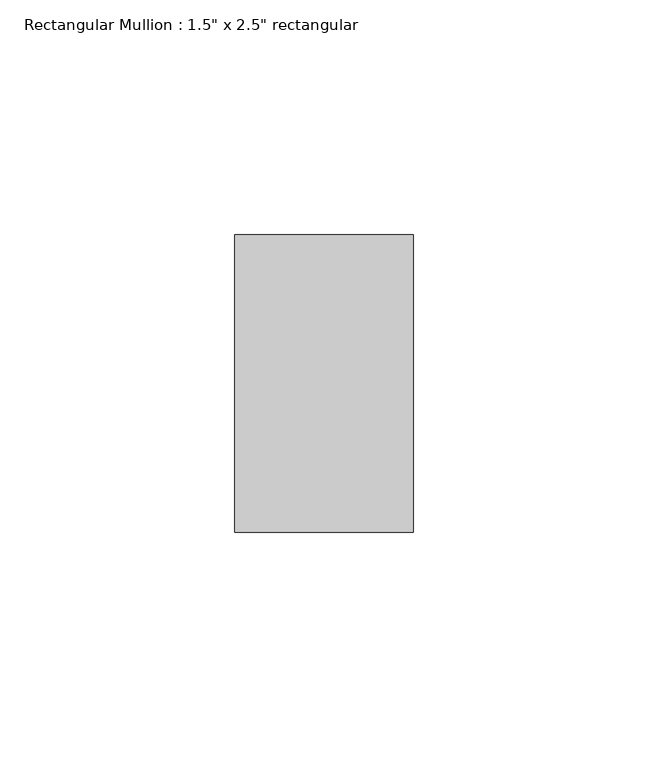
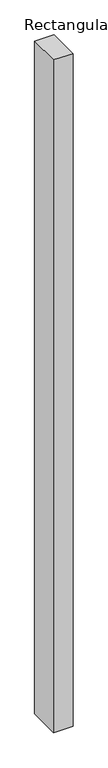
"""IFC4 building model written with IfcOpenShell, lengths in millimetres: member geometry."""

from ifc_helpers import new_model, si_unit, frame, origin, place, context, project, spatial, polyline, outline, extrude, source, transform, mapped, element, save


def member_31f4e101(model_context):
    return source(origin(), model_context, "Body", "SweptSolid", [
        extrude(outline(polyline([(19.05, 31.75), (19.05, -31.75), (-19.05, -31.75), (-19.05, 31.75), (19.05, 31.75)])), frame((0.0, 0.0, -1392.541972), z_axis=(0.0, 0.0, 1.0), x_axis=(1.0, 0.0, 0.0)), (0.0, 0.0, 1.0), 1392.541972),
    ])


if __name__ == "__main__":
    model = new_model("IFC4")
    model_context = context("Model", 3, world=origin())
    ifc_project = project(units=[si_unit("LENGTHUNIT", "METRE", prefix="MILLI")], contexts=[model_context])
    site = spatial("IfcSite", under=ifc_project)
    building = spatial("IfcBuilding", under=site)
    placement = place(None, origin())
    member_shape = member_31f4e101(model_context)
    element("IfcMember", 1, ObjectType="Rectangular Mullion : 1.5\" x 2.5\" rectangular", at=placement, inside=building, context=model_context, shape_type="MappedRepresentation", body=[
        mapped(member_shape, transform((0.0, 0.0, 0.0), x_axis=(1.0, 0.0, 0.0), y_axis=(0.0, 1.0, 0.0), z_axis=(0.0, 0.0, 1.0))),
    ])
    save(model, "model.ifc")
